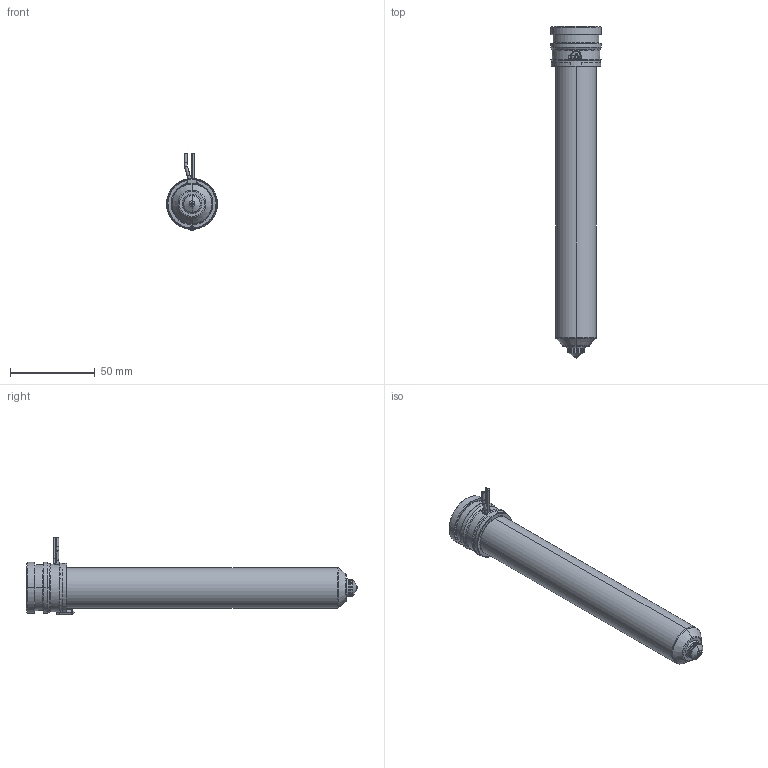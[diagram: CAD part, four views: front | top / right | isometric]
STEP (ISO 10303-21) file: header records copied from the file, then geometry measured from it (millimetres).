
FILE_DESCRIPTION((''),'2;1');
FILE_NAME('MPN-10-29-VSA10-176-A','2026-02-05T12:45:22',('UPTIO'),('Thermoplay S.p.A.'),'CREO PARAMETRIC BY PTC INC, 2023494','CREO PARAMETRIC BY PTC INC, 2023494','');
FILE_SCHEMA(('CONFIG_CONTROL_DESIGN','SHAPE_APPEARANCE_LAYERS_GROUPS'));
Length unit declared in the file: millimetre
Products named in the file (1): MPN-10-29-VSA10-176-A
Bounding box: 30 x 196 x 46 mm (x, y, z)
Volume: 60871.1 mm3; surface area: 61706.2 mm2
Topology: 2 solids, 3 shells, 556 faces, 1451 edges, 894 vertices
Faces by surface type: cylinder 184, plane 142, bspline 77, torus 70, cone 70, sphere 9, extrusion 4
Entity records: 30654 total; most frequent: CARTESIAN_POINT 14240, ORIENTED_EDGE 2890, DIRECTION 2691, EDGE_CURVE 1445, AXIS2_PLACEMENT_3D 1066, VERTEX_POINT 894, CIRCLE 590, EDGE_LOOP 585
